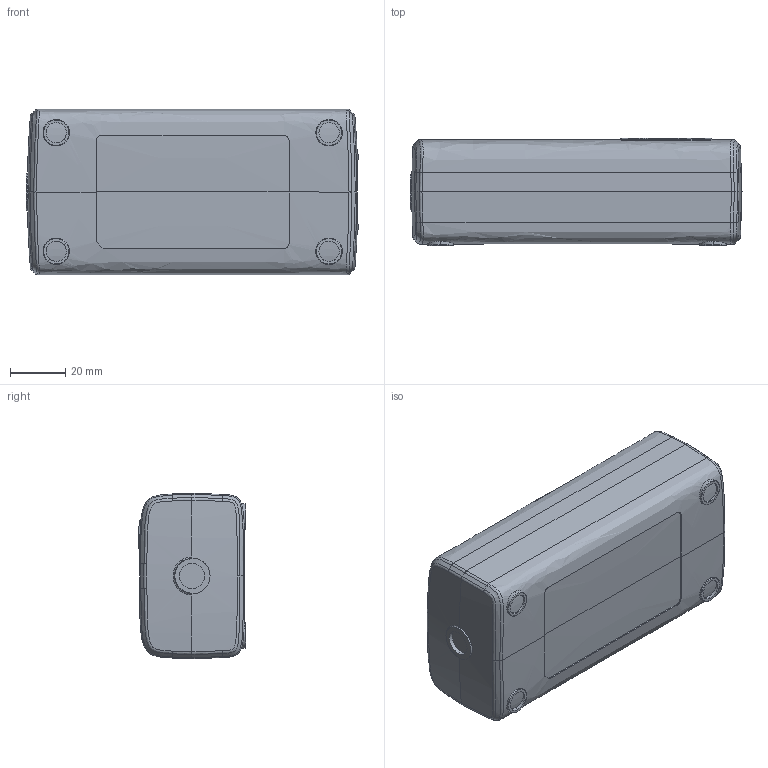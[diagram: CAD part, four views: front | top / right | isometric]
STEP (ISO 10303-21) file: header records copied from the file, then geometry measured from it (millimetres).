
FILE_DESCRIPTION (( 'STEP AP203' ), '1' );
FILE_NAME ('TP5P.STEP', '2014-01-16T03:52:43', ( 'stanley' ), ( '' ), 'SwSTEP 2.0', 'SolidWorks 2010', '' );
FILE_SCHEMA (( 'CONFIG_CONTROL_DESIGN' ));
Length unit declared in the file: millimetre
Products named in the file (1): TP5P
Bounding box: 120.47 x 38.98 x 60 mm (x, y, z)
Volume: 257172.7 mm3; surface area: 27831.9 mm2
Topology: 1 solids, 1 shells, 924 faces, 2569 edges, 1664 vertices
Faces by surface type: plane 682, cylinder 108, bspline 107, cone 14, torus 13
Entity records: 47970 total; most frequent: CARTESIAN_POINT 27621, ORIENTED_EDGE 5114, DIRECTION 2777, EDGE_CURVE 2557, VERTEX_POINT 1664, B_SPLINE_CURVE_WITH_KNOTS 1526, EDGE_LOOP 953, AXIS2_PLACEMENT_3D 930
